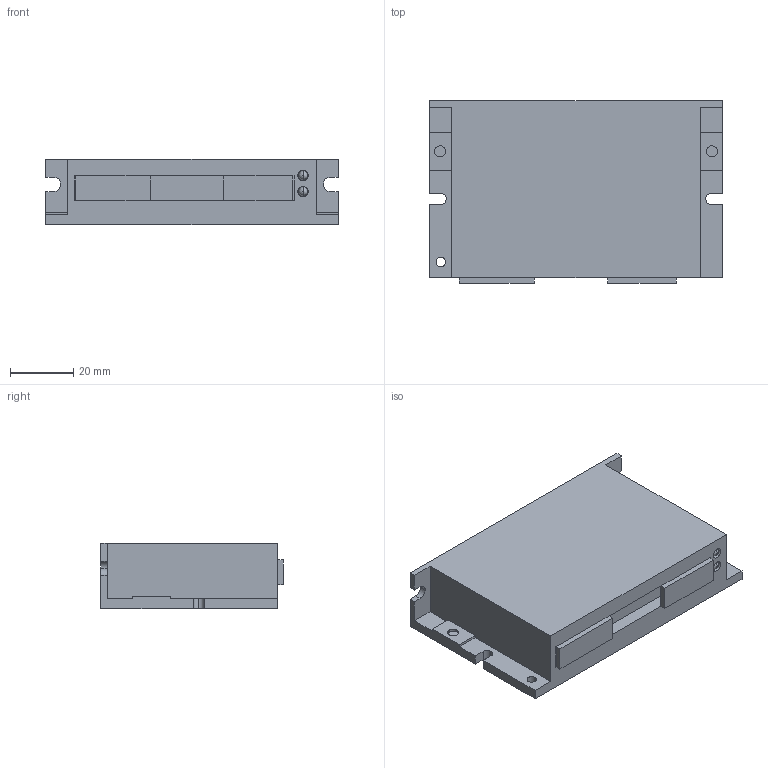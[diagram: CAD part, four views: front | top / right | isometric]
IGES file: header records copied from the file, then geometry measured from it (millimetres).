
Start section:  PTC IGES file: cu_smd-7610.igs
Global section: file name: cu_smd-7610.igs; native system: Pro/ENGINEER by Parametric Technology Corporation; preprocessor: 2011490; author: jbuhisan; organization: Unknown; date: 20130724.093540; units: inch
Bounding box: 92.6 x 57.72 x 20.8 mm (x, y, z)
Surface area: 18512 mm2 (no closed solid volume)
Topology: 0 solids, 0 shells, 94 faces, 484 edges, 484 vertices
Faces by surface type: bspline 64, revolution 30
